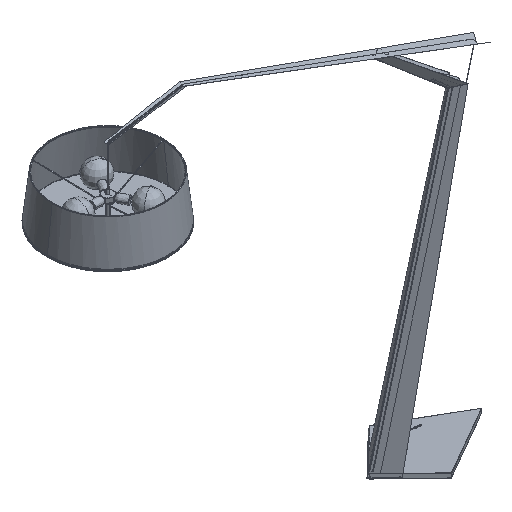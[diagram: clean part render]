
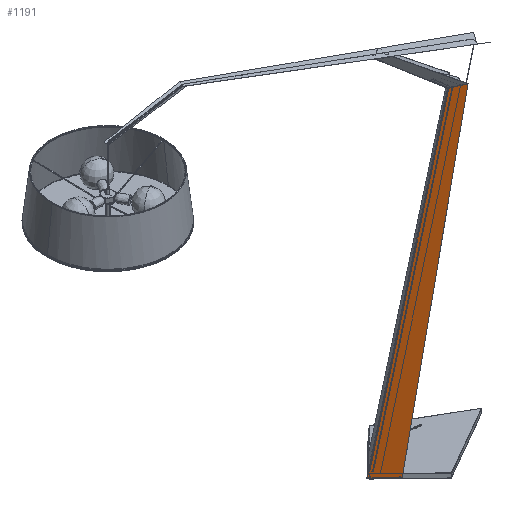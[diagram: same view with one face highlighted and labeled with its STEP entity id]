
A CAD part, isometric view. The second image highlights one B-rep face of the part: STEP entity #1191.
In plain terms, the highlighted planar face has unit normal (-0.682, -0.707, 0.185).
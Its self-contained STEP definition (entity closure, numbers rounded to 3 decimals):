
#390=B_SPLINE_CURVE_WITH_KNOTS('',3,(#16938,#16939,#16940,#16941),
 .UNSPECIFIED.,.F.,.F.,(4,4),(-0.041,0.),.UNSPECIFIED.);
#398=B_SPLINE_CURVE_WITH_KNOTS('',3,(#16972,#16973,#16974,#16975),
 .UNSPECIFIED.,.F.,.F.,(4,4),(0.021,72.169),
 .UNSPECIFIED.);
#399=B_SPLINE_CURVE_WITH_KNOTS('',1,(#16976,#16977),.UNSPECIFIED.,.F.,.F.,
(2,2),(1679.035,3209.077),.UNSPECIFIED.);
#403=B_SPLINE_CURVE_WITH_KNOTS('',1,(#17047,#17048),.UNSPECIFIED.,.F.,.F.,
(2,2),(1657.1,3195.09),.UNSPECIFIED.);
#406=B_SPLINE_CURVE_WITH_KNOTS('',1,(#17053,#17054),.UNSPECIFIED.,.F.,.F.,
(2,2),(3195.09,3316.71),.UNSPECIFIED.);
#672=PLANE('',#6810);
#1191=ADVANCED_FACE('',(#1648),#672,.T.);
#1648=FACE_OUTER_BOUND('',#2149,.T.);
#2149=EDGE_LOOP('',(#4001,#4002,#4003,#4004,#4005));
#4001=ORIENTED_EDGE('',*,*,#5037,.T.);
#4002=ORIENTED_EDGE('',*,*,#5038,.T.);
#4003=ORIENTED_EDGE('',*,*,#5054,.F.);
#4004=ORIENTED_EDGE('',*,*,#5051,.F.);
#4005=ORIENTED_EDGE('',*,*,#5024,.T.);
#5024=EDGE_CURVE('',#6316,#6317,#390,.T.);
#5037=EDGE_CURVE('',#6317,#6328,#398,.T.);
#5038=EDGE_CURVE('',#6328,#6331,#399,.T.);
#5051=EDGE_CURVE('',#6316,#6332,#403,.T.);
#5054=EDGE_CURVE('',#6332,#6331,#406,.T.);
#6316=VERTEX_POINT('',#16902);
#6317=VERTEX_POINT('',#16903);
#6328=VERTEX_POINT('',#16914);
#6331=VERTEX_POINT('',#16917);
#6332=VERTEX_POINT('',#16918);
#6810=AXIS2_PLACEMENT_3D('',#16807,#6989,$);
#6989=DIRECTION('',(-0.683,-0.707,0.185));
#16807=CARTESIAN_POINT('',(-2310.949,17826.437,-21.911));
#16902=CARTESIAN_POINT('',(-1939.747,17864.391,1493.441));
#16903=CARTESIAN_POINT('',(-1939.777,17864.418,1493.432));
#16914=CARTESIAN_POINT('',(-1992.422,17910.932,1476.993));
#16917=CARTESIAN_POINT('',(-2392.504,17910.932,0.184));
#16918=CARTESIAN_POINT('',(-2305.029,17826.437,-0.058));
#16938=CARTESIAN_POINT('',(-1939.747,17864.391,1493.441));
#16939=CARTESIAN_POINT('',(-1939.757,17864.4,1493.438));
#16940=CARTESIAN_POINT('',(-1939.767,17864.409,1493.435));
#16941=CARTESIAN_POINT('',(-1939.777,17864.418,1493.432));
#16972=CARTESIAN_POINT('',(-1939.777,17864.418,1493.432));
#16973=CARTESIAN_POINT('',(-1957.325,17879.922,1487.952));
#16974=CARTESIAN_POINT('',(-1974.873,17895.427,1482.472));
#16975=CARTESIAN_POINT('',(-1992.422,17910.932,1476.993));
#16976=CARTESIAN_POINT('',(-1992.422,17910.932,1476.993));
#16977=CARTESIAN_POINT('',(-2392.504,17910.932,0.184));
#17047=CARTESIAN_POINT('',(-1939.747,17864.391,1493.441));
#17048=CARTESIAN_POINT('',(-2305.029,17826.437,-0.058));
#17053=CARTESIAN_POINT('',(-2305.029,17826.437,-0.058));
#17054=CARTESIAN_POINT('',(-2392.504,17910.932,0.184));
